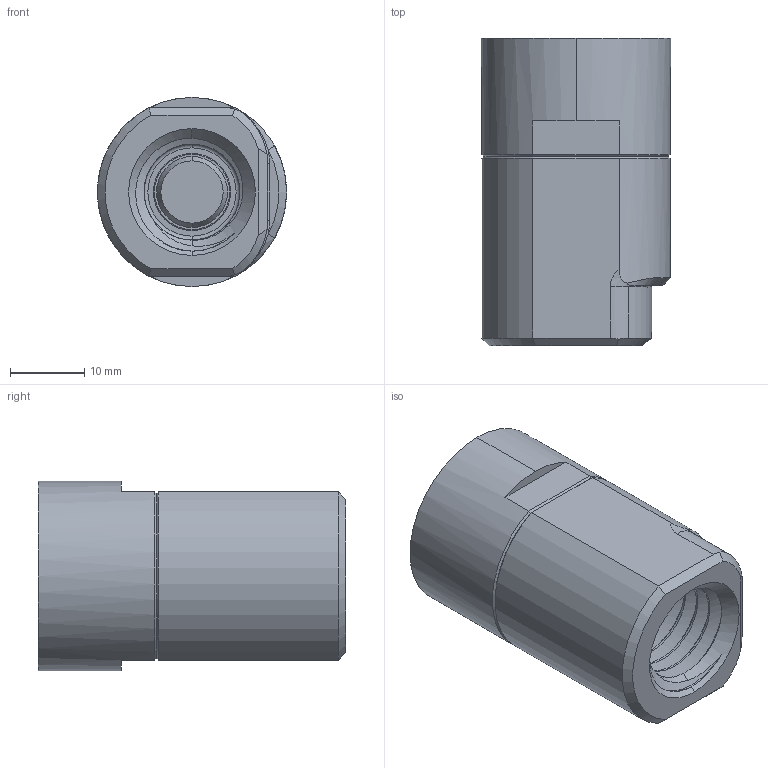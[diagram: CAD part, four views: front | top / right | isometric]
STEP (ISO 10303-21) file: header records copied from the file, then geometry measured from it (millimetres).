
FILE_DESCRIPTION (( 'STEP AP214' ), '1' );
FILE_NAME ('RT100.step', '2024-05-28T21:16:06', ( '' ), ( '' ), 'SwSTEP 2.0', 'SolidWorks 2020', '' );
FILE_SCHEMA (( 'AUTOMOTIVE_DESIGN' ));
Length unit declared in the file: inch
Products named in the file (3): RT100-TR; RT100-BH; RT100
Assembly tree (2 placements, depth 2):
  RT100
    RT100-BH
    RT100-TR
Bounding box: 25.39 x 41.27 x 25.39 mm (x, y, z)
Volume: 16668.1 mm3; surface area: 7864.4 mm2
Topology: 7 solids, 7 shells, 192 faces, 414 edges, 258 vertices
Faces by surface type: cylinder 51, plane 47, cone 39, torus 24, sphere 24, bspline 7
Entity records: 6894 total; most frequent: CARTESIAN_POINT 2533, DIRECTION 939, ORIENTED_EDGE 828, EDGE_CURVE 414, AXIS2_PLACEMENT_3D 407, VERTEX_POINT 258, EDGE_LOOP 218, CIRCLE 217
